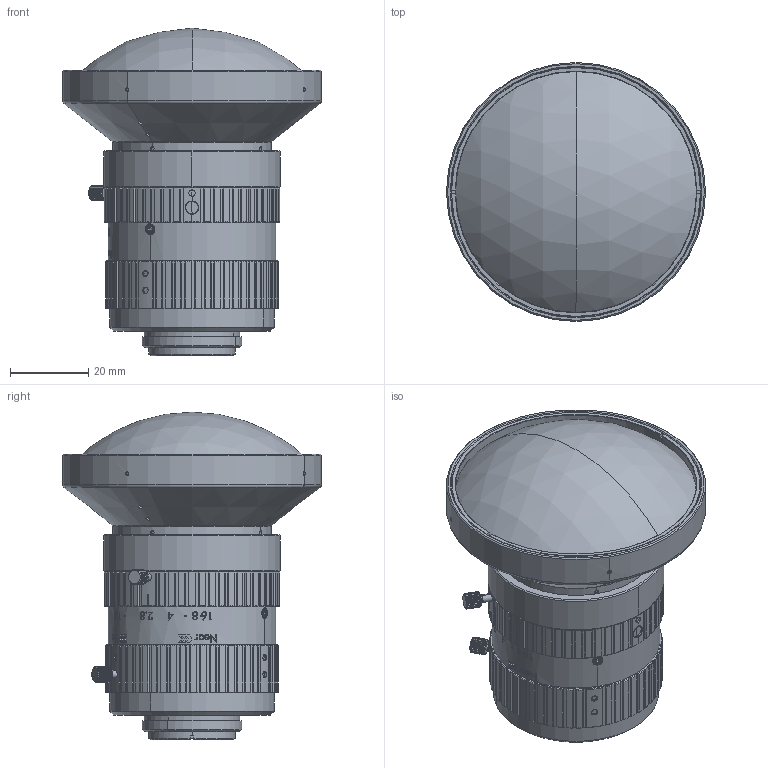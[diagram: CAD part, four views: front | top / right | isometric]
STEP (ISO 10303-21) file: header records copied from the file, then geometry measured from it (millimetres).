
FILE_DESCRIPTION (( 'STEP AP203' ), '1' );
FILE_NAME ('A24805A0000101A.STEP', '2023-10-25T06:06:06', ( '' ), ( '' ), 'SwSTEP 2.0', 'SolidWorks 2020', '' );
FILE_SCHEMA (( 'CONFIG_CONTROL_DESIGN' ));
Length unit declared in the file: millimetre
Products named in the file (1): A24805A0000101A
Bounding box: 66 x 66 x 83.49 mm (x, y, z)
Volume: 139043.7 mm3; surface area: 18675.7 mm2
Topology: 1 solids, 4 shells, 1575 faces, 4295 edges, 2802 vertices
Faces by surface type: plane 695, cylinder 443, cone 248, bspline 155, torus 20, sphere 14
Entity records: 69438 total; most frequent: CARTESIAN_POINT 32053, ORIENTED_EDGE 8590, DIRECTION 6644, EDGE_CURVE 4295, VERTEX_POINT 2802, AXIS2_PLACEMENT_3D 2416, LINE 1812, VECTOR 1812
